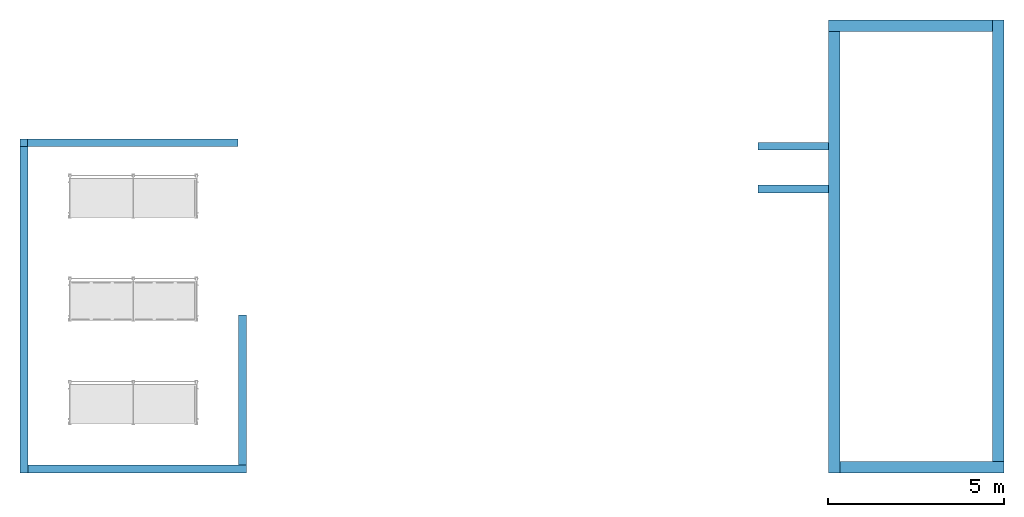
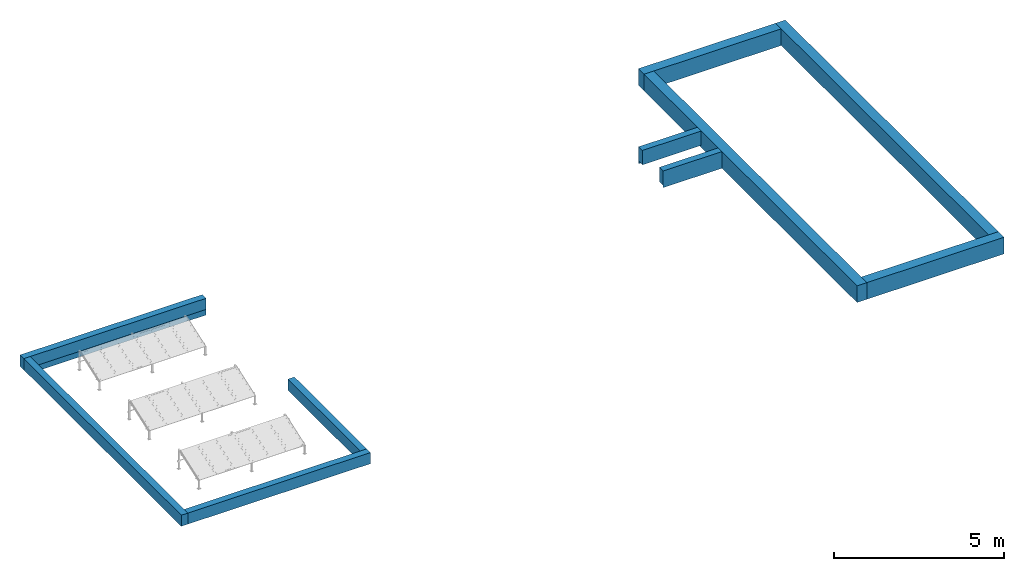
# One storey, incomplete: 11 walls.
"""IFC2X3 building model written with IfcOpenShell, lengths in metres."""

from ifc_helpers import new_model, entity, si_unit, converted_unit, derived_unit, direction, frame, frame_2d, origin, place, context, subcontext, project, spatial, polyline, rectangle, extrude, clip, bounded_halfspace, material, layer, layer_set, layer_usage, type_object, element, save


model = new_model("IFC2X3")

# Units and contexts
model_context = context("Model", 3, precision=1e-05, world=origin(), true_north=direction((6.12303176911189e-17, 1.0)))
body_context = subcontext(model_context, "Body", "Model", "MODEL_VIEW")
ifc_project = project(units=[si_unit("LENGTHUNIT", "METRE"), si_unit("AREAUNIT", "SQUARE_METRE"), si_unit("VOLUMEUNIT", "CUBIC_METRE"), converted_unit("PLANEANGLEUNIT", "DEGREE", entity("IfcRatioMeasure", 0.0174532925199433), si_unit("PLANEANGLEUNIT", "RADIAN"), dimensions=[0, 0, 0, 0, 0, 0, 0]), si_unit("MASSUNIT", "GRAM", prefix="KILO"), derived_unit("MASSDENSITYUNIT", [(si_unit("MASSUNIT", "GRAM", prefix="KILO"), 1), (si_unit("LENGTHUNIT", "METRE"), -3)]), si_unit("TIMEUNIT", "SECOND"), si_unit("FREQUENCYUNIT", "HERTZ"), si_unit("THERMODYNAMICTEMPERATUREUNIT", "DEGREE_CELSIUS"), derived_unit("THERMALTRANSMITTANCEUNIT", [(si_unit("MASSUNIT", "GRAM", prefix="KILO"), 1), (si_unit("THERMODYNAMICTEMPERATUREUNIT", "KELVIN"), -1), (si_unit("TIMEUNIT", "SECOND"), -3)]), derived_unit("VOLUMETRICFLOWRATEUNIT", [(si_unit("LENGTHUNIT", "METRE"), 3), (si_unit("TIMEUNIT", "SECOND"), -1)]), si_unit("ELECTRICCURRENTUNIT", "AMPERE"), si_unit("ELECTRICVOLTAGEUNIT", "VOLT"), si_unit("POWERUNIT", "WATT"), si_unit("FORCEUNIT", "NEWTON", prefix="KILO"), si_unit("ILLUMINANCEUNIT", "LUX"), si_unit("LUMINOUSFLUXUNIT", "LUMEN"), si_unit("LUMINOUSINTENSITYUNIT", "CANDELA"), derived_unit("USERDEFINED", [(si_unit("MASSUNIT", "GRAM", prefix="KILO"), -1), (si_unit("LENGTHUNIT", "METRE"), -2), (si_unit("TIMEUNIT", "SECOND"), 3), (si_unit("LUMINOUSFLUXUNIT", "LUMEN"), 1)]), derived_unit("LINEARVELOCITYUNIT", [(si_unit("LENGTHUNIT", "METRE"), 1), (si_unit("TIMEUNIT", "SECOND"), -1)]), si_unit("PRESSUREUNIT", "PASCAL"), derived_unit("USERDEFINED", [(si_unit("LENGTHUNIT", "METRE"), -2), (si_unit("MASSUNIT", "GRAM", prefix="KILO"), 1), (si_unit("TIMEUNIT", "SECOND"), -2)])], contexts=[model_context])

# Site, building, storey
site_placement = place(None, origin())
site = spatial("IfcSite", under=ifc_project, at=site_placement, Name="Surface", CompositionType="ELEMENT")
building_placement = place(site_placement, origin())
building = spatial("IfcBuilding", under=site, at=building_placement, CompositionType="ELEMENT")
storey_placement = place(building_placement, frame((0.0, 0.0, 3.19999999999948)))
storey = spatial("IfcBuildingStorey", under=building, at=storey_placement, Name="RDC Acrotère", CompositionType="ELEMENT", Elevation=3.19999999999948)

# Walls
ifc_material_1 = material(Name="Maçonnerie - Enduit")
ifc_layer_1 = layer(ifc_material_1, 0.02)
ifc_material_2 = material(Name="Blocs béton manufacturés")
ifc_layer_2 = layer(ifc_material_2, 0.2)
ifc_material_3 = material(Name="Toiture, membrane EPDM")
ifc_layer_3 = layer(ifc_material_3, 0.002)
ifc_layer_set_1 = layer_set([ifc_layer_1, ifc_layer_2, ifc_layer_3], Name="Mur de base:Acrotère garage Ext. Crépis 2 + BBMC 20 + EPDM")
ifc_layer_usage_1 = layer_usage(ifc_layer_set_1, "AXIS2", "POSITIVE", -0.111)
wall_type_1 = type_object("IfcWallType", Name="Mur de base:Acrotère garage Ext. Crépis 2 + BBMC 20 + EPDM", PredefinedType="STANDARD", material=ifc_layer_set_1)
wall_1_placement = place(storey_placement, frame((-5.0024888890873, 4.3860106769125, -0.2), z_axis=(0.0, 0.0, 1.0), x_axis=(-1.0, 0.0, 0.0)))
element("IfcWallStandardCase", 1, at=wall_1_placement, inside=storey, type_object=wall_type_1, material=ifc_layer_usage_1, Name="Mur de base:Acrotère garage Ext. Crépis 2 + BBMC 20 + EPDM", ObjectType="Mur de base:Acrotère garage Ext. Crépis 2 + BBMC 20 + EPDM", context=body_context, shape_type="SweptSolid", body=[
    extrude(rectangle(XDim=5.97999999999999, YDim=0.222, at=frame_2d((2.99, -8.32667268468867e-17), x_axis=(-1.0, 0.0))), origin(), (0.0, 0.0, 1.0), 0.2),
])
ifc_layer_usage_2 = layer_usage(ifc_layer_set_1, "AXIS2", "POSITIVE", -0.111)
wall_2_placement = place(storey_placement, frame((-5.0024888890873, 4.3860106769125, 0.0), z_axis=(0.0, 0.0, 1.0), x_axis=(-1.0, 0.0, 0.0)))
element("IfcWallStandardCase", 2, at=wall_2_placement, inside=storey, type_object=wall_type_1, material=ifc_layer_usage_2, Name="Mur de base:Acrotère garage Ext. Crépis 2 + BBMC 20 + EPDM", ObjectType="Mur de base:Acrotère garage Ext. Crépis 2 + BBMC 20 + EPDM", context=body_context, shape_type="SweptSolid", body=[
    extrude(rectangle(XDim=6.19999999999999, YDim=0.222, at=frame_2d((3.1, 0.0), x_axis=(-1.0, 0.0))), origin(), (0.0, 0.0, 1.0), 0.4),
])
ifc_layer_usage_3 = layer_usage(ifc_layer_set_1, "AXIS2", "POSITIVE", -0.111)
wall_3_placement = place(storey_placement, frame((-11.0914888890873, 4.27501067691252, 0.0), z_axis=(0.0, 0.0, 1.0), x_axis=(0.0, -1.0, 0.0)))
element("IfcWallStandardCase", 3, at=wall_3_placement, inside=storey, type_object=wall_type_1, material=ifc_layer_usage_3, Name="Mur de base:Acrotère garage Ext. Crépis 2 + BBMC 20 + EPDM", ObjectType="Mur de base:Acrotère garage Ext. Crépis 2 + BBMC 20 + EPDM", context=body_context, shape_type="SweptSolid", body=[
    extrude(rectangle(XDim=9.28800000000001, YDim=0.222000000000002, at=frame_2d((4.644, 0.0), x_axis=(-1.0, 0.0))), origin(), (0.0, 0.0, 1.0), 0.4),
])
ifc_layer_usage_4 = layer_usage(ifc_layer_set_1, "AXIS2", "POSITIVE", -0.111)
wall_4_placement = place(storey_placement, frame((-10.9804888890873, -4.90198932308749, 0.0)))
element("IfcWallStandardCase", 4, at=wall_4_placement, inside=storey, type_object=wall_type_1, material=ifc_layer_usage_4, Name="Mur de base:Acrotère garage Ext. Crépis 2 + BBMC 20 + EPDM", ObjectType="Mur de base:Acrotère garage Ext. Crépis 2 + BBMC 20 + EPDM", context=body_context, shape_type="SweptSolid", body=[
    extrude(rectangle(XDim=6.21799999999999, YDim=0.222, at=frame_2d((3.109, 4.57966997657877e-16), x_axis=(-1.0, 0.0))), origin(), (0.0, 0.0, 1.0), 0.4),
])
ifc_layer_usage_5 = layer_usage(ifc_layer_set_1, "AXIS2", "POSITIVE", -0.111)
wall_5_placement = place(storey_placement, frame((-4.87348888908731, -4.7909893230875, 0.0), z_axis=(0.0, 0.0, 1.0), x_axis=(0.0, 1.0, 0.0)))
element("IfcWallStandardCase", 5, at=wall_5_placement, inside=storey, type_object=wall_type_1, material=ifc_layer_usage_5, Name="Mur de base:Acrotère garage Ext. Crépis 2 + BBMC 20 + EPDM", ObjectType="Mur de base:Acrotère garage Ext. Crépis 2 + BBMC 20 + EPDM", context=body_context, shape_type="SweptSolid", body=[
    extrude(rectangle(XDim=4.26799999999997, YDim=0.222, at=frame_2d((2.13399999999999, -1.73472347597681e-16), x_axis=(-1.0, 0.0))), origin(), (0.0, 0.0, 1.0), 0.4),
])
ifc_layer_usage_6 = layer_usage(ifc_layer_set_1, "AXIS2", "NEGATIVE", 0.111)
wall_6_placement = place(storey_placement, frame((9.7975111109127, 4.28715363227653, 0.0)))
element("IfcWallStandardCase", 6, at=wall_6_placement, inside=storey, type_object=wall_type_1, material=ifc_layer_usage_6, Name="Mur de base:Acrotère garage Ext. Crépis 2 + BBMC 20 + EPDM", ObjectType="Mur de base:Acrotère garage Ext. Crépis 2 + BBMC 20 + EPDM", context=body_context, shape_type="Clipping", body=[
    clip(clip(extrude(rectangle(XDim=2.00000000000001, YDim=0.222, at=frame_2d((1.0, -3.46944695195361e-17), x_axis=(-1.0, 0.0))), origin(), (0.0, 0.0, 1.0), 0.6), bounded_halfspace(frame((0.0, 0.0898570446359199, 0.0820000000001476), z_axis=(0.0, 0.0, 1.0), x_axis=(0.0, 1.0, 0.0)), True, frame((0.0, 0.0898570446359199, 0.0820000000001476), z_axis=(0.0, 0.0, 1.0), x_axis=(0.0, 1.0, 0.0)), polyline([(0.0, 0.0), (-0.20085704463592, 0.0), (-0.200857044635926, -2.0), (0.0, -2.0), (0.0, 0.0)]))), bounded_halfspace(frame((2.0, 0.0898570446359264, 0.0820000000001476), z_axis=(0.0, 1.0, 0.0), x_axis=(0.0, 0.0, 1.0)), True, frame((2.0, 0.0898570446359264, 0.0820000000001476), z_axis=(0.0, 1.0, 0.0), x_axis=(0.0, 0.0, 1.0)), polyline([(0.0, 0.0), (-0.0820000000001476, 0.0), (-0.0820000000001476, -2.0), (0.0, -2.0), (0.0, 0.0)]))),
])
ifc_layer_usage_7 = layer_usage(ifc_layer_set_1, "AXIS2", "POSITIVE", -0.111)
wall_7_placement = place(storey_placement, frame((9.7975111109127, 3.06691599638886, 0.0)))
element("IfcWallStandardCase", 7, at=wall_7_placement, inside=storey, type_object=wall_type_1, material=ifc_layer_usage_7, Name="Mur de base:Acrotère garage Ext. Crépis 2 + BBMC 20 + EPDM", ObjectType="Mur de base:Acrotère garage Ext. Crépis 2 + BBMC 20 + EPDM", context=body_context, shape_type="Clipping", body=[
    clip(clip(extrude(rectangle(XDim=2.00000000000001, YDim=0.222, at=frame_2d((1.0, -3.46944695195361e-17), x_axis=(-1.0, 0.0))), origin(), (0.0, 0.0, 1.0), 0.6), bounded_halfspace(frame((2.0, -0.0899053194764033, 0.0820000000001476), z_axis=(0.0, 0.0, 1.0), x_axis=(0.0, 1.0, 0.0)), True, frame((2.0, -0.0899053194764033, 0.0820000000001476), z_axis=(0.0, 0.0, 1.0), x_axis=(0.0, 1.0, 0.0)), polyline([(0.0, 0.0), (0.200905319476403, 0.0), (0.20090531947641, 2.0), (0.0, 2.0), (0.0, 0.0)]))), bounded_halfspace(frame((0.0, -0.0899053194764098, 0.0820000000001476), z_axis=(0.0, -1.0, 0.0), x_axis=(0.0, 0.0, 1.0)), True, frame((0.0, -0.0899053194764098, 0.0820000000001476), z_axis=(0.0, -1.0, 0.0), x_axis=(0.0, 0.0, 1.0)), polyline([(0.0, 0.0), (-0.0820000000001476, 0.0), (-0.0820000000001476, -2.0), (0.0, -2.0), (0.0, 0.0)]))),
])
ifc_material_4 = material(Name="Bardage bois")
ifc_layer_4 = layer(ifc_material_4, 0.01)
ifc_material_5 = material(Name="Maçonnerie - Isolant")
ifc_layer_5 = layer(ifc_material_5, 0.12)
ifc_layer_6 = layer(ifc_material_2, 0.2)
ifc_layer_7 = layer(ifc_material_3, 0.002)
ifc_layer_set_2 = layer_set([ifc_layer_4, ifc_layer_5, ifc_layer_6, ifc_layer_7], Name="Mur de base:Acrotère Nuit Ext. Bois 2 +Isolant 12 +  BBMC 20 + EPDM")
ifc_layer_usage_8 = layer_usage(ifc_layer_set_2, "AXIS2", "NEGATIVE", 0.166)
wall_type_2 = type_object("IfcWallType", Name="Mur de base:Acrotère Nuit Ext. Bois 2 +Isolant 12 +  BBMC 20 + EPDM", PredefinedType="STANDARD", material=ifc_layer_set_2)
wall_8_placement = place(storey_placement, frame((11.7975111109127, 7.71101067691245, 0.0)))
element("IfcWallStandardCase", 8, at=wall_8_placement, inside=storey, type_object=wall_type_2, material=ifc_layer_usage_8, Name="Mur de base:Acrotère Nuit Ext. Bois 2 +Isolant 12 +  BBMC 20 + EPDM", ObjectType="Mur de base:Acrotère Nuit Ext. Bois 2 +Isolant 12 +  BBMC 20 + EPDM", context=body_context, shape_type="SweptSolid", body=[
    extrude(rectangle(XDim=4.66799999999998, YDim=0.332, at=frame_2d((2.33399999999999, 0.0), x_axis=(-1.0, 0.0))), origin(), (0.0, 0.0, 1.0), 0.6),
])
ifc_layer_usage_9 = layer_usage(ifc_layer_set_2, "AXIS2", "NEGATIVE", 0.166)
wall_9_placement = place(storey_placement, frame((11.9635111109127, -5.01298932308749, 0.0), z_axis=(0.0, 0.0, 1.0), x_axis=(0.0, 1.0, 0.0)))
element("IfcWallStandardCase", 9, at=wall_9_placement, inside=storey, type_object=wall_type_2, material=ifc_layer_usage_9, Name="Mur de base:Acrotère Nuit Ext. Bois 2 +Isolant 12 +  BBMC 20 + EPDM", ObjectType="Mur de base:Acrotère Nuit Ext. Bois 2 +Isolant 12 +  BBMC 20 + EPDM", context=body_context, shape_type="SweptSolid", body=[
    extrude(rectangle(XDim=12.5579999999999, YDim=0.331999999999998, at=frame_2d((6.27899999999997, 0.0), x_axis=(-1.0, 0.0))), origin(), (0.0, 0.0, 1.0), 0.6),
])
ifc_layer_usage_10 = layer_usage(ifc_layer_set_2, "AXIS2", "NEGATIVE", 0.166)
wall_10_placement = place(storey_placement, frame((16.7975111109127, -4.84698932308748, 0.0), z_axis=(0.0, 0.0, 1.0), x_axis=(-1.0, 0.0, 0.0)))
element("IfcWallStandardCase", 10, at=wall_10_placement, inside=storey, type_object=wall_type_2, material=ifc_layer_usage_10, Name="Mur de base:Acrotère Nuit Ext. Bois 2 +Isolant 12 +  BBMC 20 + EPDM", ObjectType="Mur de base:Acrotère Nuit Ext. Bois 2 +Isolant 12 +  BBMC 20 + EPDM", context=body_context, shape_type="SweptSolid", body=[
    extrude(rectangle(XDim=4.66799999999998, YDim=0.332, at=frame_2d((2.33399999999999, -2.77555756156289e-17), x_axis=(-1.0, 0.0))), origin(), (0.0, 0.0, 1.0), 0.6),
])
ifc_layer_usage_11 = layer_usage(ifc_layer_set_2, "AXIS2", "NEGATIVE", 0.166)
wall_11_placement = place(storey_placement, frame((16.6315111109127, 7.87701067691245, 0.0), z_axis=(0.0, 0.0, 1.0), x_axis=(0.0, -1.0, 0.0)))
element("IfcWallStandardCase", 11, at=wall_11_placement, inside=storey, type_object=wall_type_2, material=ifc_layer_usage_11, Name="Mur de base:Acrotère Nuit Ext. Bois 2 +Isolant 12 +  BBMC 20 + EPDM", ObjectType="Mur de base:Acrotère Nuit Ext. Bois 2 +Isolant 12 +  BBMC 20 + EPDM", context=body_context, shape_type="SweptSolid", body=[
    extrude(rectangle(XDim=12.5579999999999, YDim=0.331999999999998, at=frame_2d((6.27899999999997, 0.0), x_axis=(-1.0, 0.0))), origin(), (0.0, 0.0, 1.0), 0.6),
])

save(model, "model.ifc")
